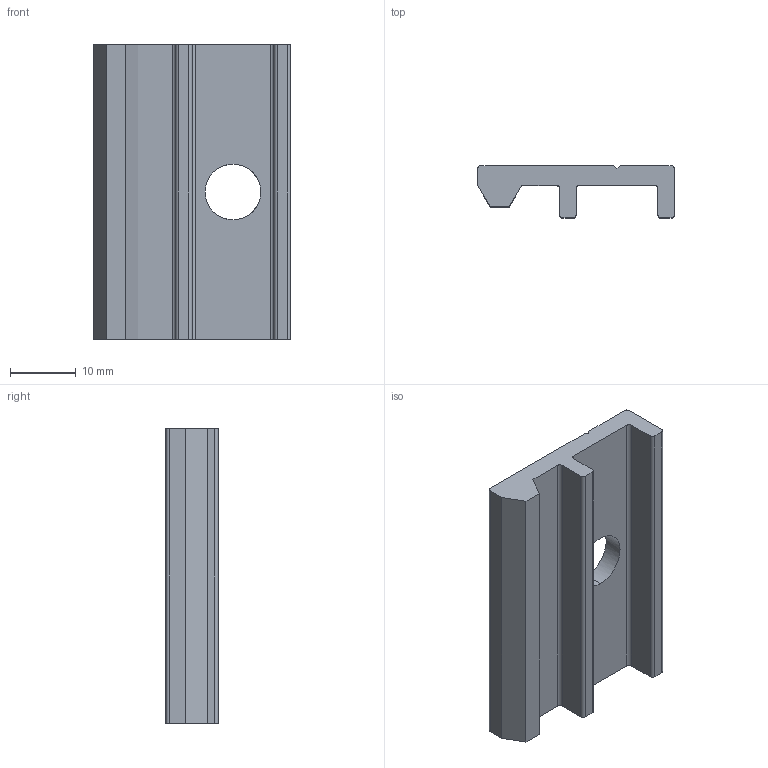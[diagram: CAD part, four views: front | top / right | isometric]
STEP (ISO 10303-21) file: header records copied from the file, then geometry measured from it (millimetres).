
FILE_DESCRIPTION (( 'STEP AP203' ), '1' );
FILE_NAME ('084.106.821.STEP', '2013-01-23T13:15:24', ( 'Alusic' ), ( 'Alusic' ), 'SwSTEP 2.0', 'SolidWorks 2011', '' );
FILE_SCHEMA (( 'CONFIG_CONTROL_DESIGN' ));
Length unit declared in the file: millimetre
Products named in the file (1): 084.106.821
Bounding box: 30 x 8 x 45 mm (x, y, z)
Volume: 5702 mm3; surface area: 4196.7 mm2
Topology: 1 solids, 1 shells, 31 faces, 88 edges, 58 vertices
Faces by surface type: plane 20, cylinder 11
Entity records: 1089 total; most frequent: CARTESIAN_POINT 190, ORIENTED_EDGE 176, DIRECTION 170, EDGE_CURVE 88, VECTOR 62, LINE 62, VERTEX_POINT 58, AXIS2_PLACEMENT_3D 54
